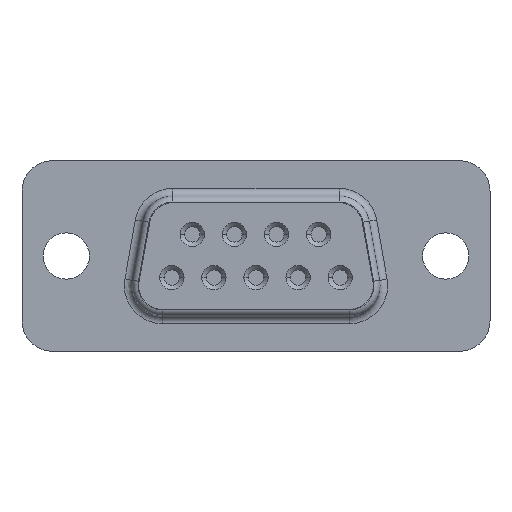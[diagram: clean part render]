
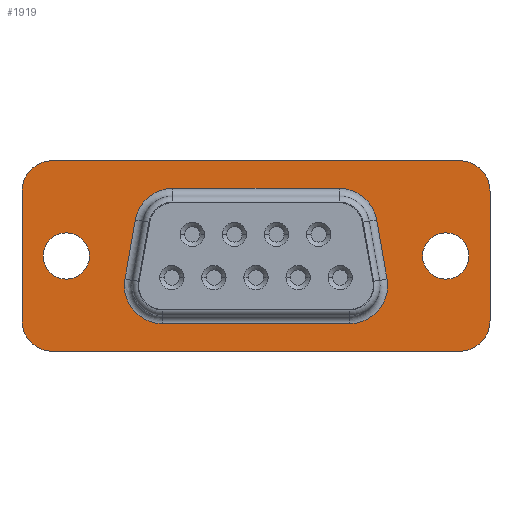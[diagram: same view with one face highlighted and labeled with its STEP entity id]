
A CAD part, front view. The second image highlights one B-rep face of the part: STEP entity #1919.
In plain terms, the highlighted planar face has unit normal (0, -1, 0).
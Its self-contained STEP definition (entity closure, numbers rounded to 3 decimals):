
#1919=ADVANCED_FACE('',(#2257,#2258,#2259,#2260),#2175,.F.);
#2175=PLANE('',#11616);
#2257=FACE_BOUND('',#2794,.T.);
#2258=FACE_BOUND('',#2795,.T.);
#2259=FACE_BOUND('',#2796,.T.);
#2260=FACE_BOUND('',#2797,.T.);
#2794=EDGE_LOOP('',(#6394,#6395,#6396,#6397,#6398,#6399,#6400,#6401));
#2795=EDGE_LOOP('',(#6402,#6403));
#2796=EDGE_LOOP('',(#6404,#6405));
#2797=EDGE_LOOP('',(#6406,#6407,#6408,#6409,#6410,#6411,#6412,#6413));
#3381=CIRCLE('',#11596,2.);
#3382=CIRCLE('',#11599,2.);
#3383=CIRCLE('',#11602,2.);
#3384=CIRCLE('',#11605,2.);
#3385=CIRCLE('',#11608,1.525);
#3386=CIRCLE('',#11609,1.525);
#3387=CIRCLE('',#11610,1.525);
#3388=CIRCLE('',#11611,1.525);
#3389=CIRCLE('',#11612,2.5);
#3390=CIRCLE('',#11613,2.5);
#3391=CIRCLE('',#11614,2.5);
#3392=CIRCLE('',#11615,2.5);
#6394=ORIENTED_EDGE('',*,*,#9264,.T.);
#6395=ORIENTED_EDGE('',*,*,#9267,.F.);
#6396=ORIENTED_EDGE('',*,*,#9270,.T.);
#6397=ORIENTED_EDGE('',*,*,#9273,.F.);
#6398=ORIENTED_EDGE('',*,*,#9276,.T.);
#6399=ORIENTED_EDGE('',*,*,#9279,.F.);
#6400=ORIENTED_EDGE('',*,*,#9282,.T.);
#6401=ORIENTED_EDGE('',*,*,#9259,.F.);
#6402=ORIENTED_EDGE('',*,*,#9283,.F.);
#6403=ORIENTED_EDGE('',*,*,#9284,.F.);
#6404=ORIENTED_EDGE('',*,*,#9285,.F.);
#6405=ORIENTED_EDGE('',*,*,#9286,.F.);
#6406=ORIENTED_EDGE('',*,*,#9287,.F.);
#6407=ORIENTED_EDGE('',*,*,#9288,.F.);
#6408=ORIENTED_EDGE('',*,*,#9289,.F.);
#6409=ORIENTED_EDGE('',*,*,#9290,.T.);
#6410=ORIENTED_EDGE('',*,*,#9291,.F.);
#6411=ORIENTED_EDGE('',*,*,#9292,.F.);
#6412=ORIENTED_EDGE('',*,*,#9293,.F.);
#6413=ORIENTED_EDGE('',*,*,#9294,.T.);
#7698=VERTEX_POINT('',#22197);
#7699=VERTEX_POINT('',#22198);
#7702=VERTEX_POINT('',#22207);
#7704=VERTEX_POINT('',#22213);
#7706=VERTEX_POINT('',#22219);
#7708=VERTEX_POINT('',#22225);
#7710=VERTEX_POINT('',#22231);
#7712=VERTEX_POINT('',#22237);
#7714=VERTEX_POINT('',#22245);
#7715=VERTEX_POINT('',#22246);
#7716=VERTEX_POINT('',#22249);
#7717=VERTEX_POINT('',#22250);
#7718=VERTEX_POINT('',#22253);
#7719=VERTEX_POINT('',#22254);
#7720=VERTEX_POINT('',#22256);
#7721=VERTEX_POINT('',#22258);
#7722=VERTEX_POINT('',#22260);
#7723=VERTEX_POINT('',#22262);
#7724=VERTEX_POINT('',#22264);
#7725=VERTEX_POINT('',#22266);
#9259=EDGE_CURVE('',#7698,#7699,#3381,.T.);
#9264=EDGE_CURVE('',#7698,#7702,#9900,.T.);
#9267=EDGE_CURVE('',#7704,#7702,#3382,.T.);
#9270=EDGE_CURVE('',#7704,#7706,#9905,.T.);
#9273=EDGE_CURVE('',#7708,#7706,#3383,.T.);
#9276=EDGE_CURVE('',#7708,#7710,#9910,.T.);
#9279=EDGE_CURVE('',#7712,#7710,#3384,.T.);
#9282=EDGE_CURVE('',#7712,#7699,#9915,.T.);
#9283=EDGE_CURVE('',#7714,#7715,#3385,.T.);
#9284=EDGE_CURVE('',#7715,#7714,#3386,.T.);
#9285=EDGE_CURVE('',#7716,#7717,#3387,.T.);
#9286=EDGE_CURVE('',#7717,#7716,#3388,.T.);
#9287=EDGE_CURVE('',#7718,#7719,#3389,.T.);
#9288=EDGE_CURVE('',#7720,#7718,#9916,.T.);
#9289=EDGE_CURVE('',#7721,#7720,#3390,.T.);
#9290=EDGE_CURVE('',#7721,#7722,#9917,.T.);
#9291=EDGE_CURVE('',#7723,#7722,#3391,.T.);
#9292=EDGE_CURVE('',#7724,#7723,#9918,.T.);
#9293=EDGE_CURVE('',#7725,#7724,#3392,.T.);
#9294=EDGE_CURVE('',#7725,#7719,#9919,.T.);
#9900=LINE('',#22206,#10459);
#9905=LINE('',#22218,#10464);
#9910=LINE('',#22230,#10469);
#9915=LINE('',#22242,#10474);
#9916=LINE('',#22255,#10475);
#9917=LINE('',#22259,#10476);
#9918=LINE('',#22263,#10477);
#9919=LINE('',#22267,#10478);
#10459=VECTOR('',#14345,1.);
#10464=VECTOR('',#14356,1.);
#10469=VECTOR('',#14367,1.);
#10474=VECTOR('',#14378,1.);
#10475=VECTOR('',#14391,1.);
#10476=VECTOR('',#14394,1.);
#10477=VECTOR('',#14397,1.);
#10478=VECTOR('',#14400,1.);
#11596=AXIS2_PLACEMENT_3D('',#22196,#14337,#14338);
#11599=AXIS2_PLACEMENT_3D('',#22212,#14350,#14351);
#11602=AXIS2_PLACEMENT_3D('',#22224,#14361,#14362);
#11605=AXIS2_PLACEMENT_3D('',#22236,#14372,#14373);
#11608=AXIS2_PLACEMENT_3D('',#22244,#14381,#14382);
#11609=AXIS2_PLACEMENT_3D('',#22247,#14383,#14384);
#11610=AXIS2_PLACEMENT_3D('',#22248,#14385,#14386);
#11611=AXIS2_PLACEMENT_3D('',#22251,#14387,#14388);
#11612=AXIS2_PLACEMENT_3D('',#22252,#14389,#14390);
#11613=AXIS2_PLACEMENT_3D('',#22257,#14392,#14393);
#11614=AXIS2_PLACEMENT_3D('',#22261,#14395,#14396);
#11615=AXIS2_PLACEMENT_3D('',#22265,#14398,#14399);
#11616=AXIS2_PLACEMENT_3D('',#22268,#14401,#14402);
#14337=DIRECTION('',(0.,1.,0.));
#14338=DIRECTION('',(1.,0.,0.));
#14345=DIRECTION('',(0.,0.,1.));
#14350=DIRECTION('',(0.,1.,0.));
#14351=DIRECTION('',(0.,0.,1.));
#14356=DIRECTION('',(-1.,0.,0.));
#14361=DIRECTION('',(0.,1.,0.));
#14362=DIRECTION('',(-1.,0.,0.));
#14367=DIRECTION('',(0.,0.,-1.));
#14372=DIRECTION('',(0.,1.,0.));
#14373=DIRECTION('',(0.,0.,-1.));
#14378=DIRECTION('',(1.,0.,0.));
#14381=DIRECTION('',(0.,-1.,0.));
#14382=DIRECTION('',(-1.,0.,0.));
#14383=DIRECTION('',(0.,-1.,0.));
#14384=DIRECTION('',(1.,0.,0.));
#14385=DIRECTION('',(0.,-1.,0.));
#14386=DIRECTION('',(-1.,0.,0.));
#14387=DIRECTION('',(0.,-1.,0.));
#14388=DIRECTION('',(1.,0.,0.));
#14389=DIRECTION('',(0.,-1.,0.));
#14390=DIRECTION('',(0.985,0.,0.174));
#14391=DIRECTION('',(-0.174,0.,0.985));
#14392=DIRECTION('',(0.,-1.,0.));
#14393=DIRECTION('',(0.,0.,-1.));
#14394=DIRECTION('',(-1.,0.,0.));
#14395=DIRECTION('',(0.,-1.,0.));
#14396=DIRECTION('',(-0.985,0.,0.174));
#14397=DIRECTION('',(-0.174,0.,-0.985));
#14398=DIRECTION('',(0.,-1.,0.));
#14399=DIRECTION('',(0.,0.,1.));
#14400=DIRECTION('',(1.,0.,0.));
#14401=DIRECTION('',(0.,1.,0.));
#14402=DIRECTION('',(1.,0.,0.));
#22196=CARTESIAN_POINT('',(13.405,2.7,-4.275));
#22197=CARTESIAN_POINT('',(15.405,2.7,-4.275));
#22198=CARTESIAN_POINT('',(13.405,2.7,-6.275));
#22206=CARTESIAN_POINT('',(15.405,2.7,-4.275));
#22207=CARTESIAN_POINT('',(15.405,2.7,4.275));
#22212=CARTESIAN_POINT('',(13.405,2.7,4.275));
#22213=CARTESIAN_POINT('',(13.405,2.7,6.275));
#22218=CARTESIAN_POINT('',(13.405,2.7,6.275));
#22219=CARTESIAN_POINT('',(-13.405,2.7,6.275));
#22224=CARTESIAN_POINT('',(-13.405,2.7,4.275));
#22225=CARTESIAN_POINT('',(-15.405,2.7,4.275));
#22230=CARTESIAN_POINT('',(-15.405,2.7,4.275));
#22231=CARTESIAN_POINT('',(-15.405,2.7,-4.275));
#22236=CARTESIAN_POINT('',(-13.405,2.7,-4.275));
#22237=CARTESIAN_POINT('',(-13.405,2.7,-6.275));
#22242=CARTESIAN_POINT('',(-13.405,2.7,-6.275));
#22244=CARTESIAN_POINT('',(-12.495,2.7,0.));
#22245=CARTESIAN_POINT('',(-14.02,2.7,0.));
#22246=CARTESIAN_POINT('',(-10.97,2.7,0.));
#22247=CARTESIAN_POINT('',(-12.495,2.7,0.));
#22248=CARTESIAN_POINT('',(12.495,2.7,0.));
#22249=CARTESIAN_POINT('',(10.97,2.7,0.));
#22250=CARTESIAN_POINT('',(14.02,2.7,0.));
#22251=CARTESIAN_POINT('',(12.495,2.7,0.));
#22252=CARTESIAN_POINT('',(5.477,2.7,1.95));
#22253=CARTESIAN_POINT('',(7.939,2.7,2.384));
#22254=CARTESIAN_POINT('',(5.477,2.7,4.45));
#22255=CARTESIAN_POINT('',(8.627,2.7,-1.516));
#22256=CARTESIAN_POINT('',(8.627,2.7,-1.516));
#22257=CARTESIAN_POINT('',(6.165,2.7,-1.95));
#22258=CARTESIAN_POINT('',(6.165,2.7,-4.45));
#22259=CARTESIAN_POINT('',(6.165,2.7,-4.45));
#22260=CARTESIAN_POINT('',(-6.165,2.7,-4.45));
#22261=CARTESIAN_POINT('',(-6.165,2.7,-1.95));
#22262=CARTESIAN_POINT('',(-8.627,2.7,-1.516));
#22263=CARTESIAN_POINT('',(-7.939,2.7,2.384));
#22264=CARTESIAN_POINT('',(-7.939,2.7,2.384));
#22265=CARTESIAN_POINT('',(-5.477,2.7,1.95));
#22266=CARTESIAN_POINT('',(-5.477,2.7,4.45));
#22267=CARTESIAN_POINT('',(-5.477,2.7,4.45));
#22268=CARTESIAN_POINT('',(0.,2.7,0.));
